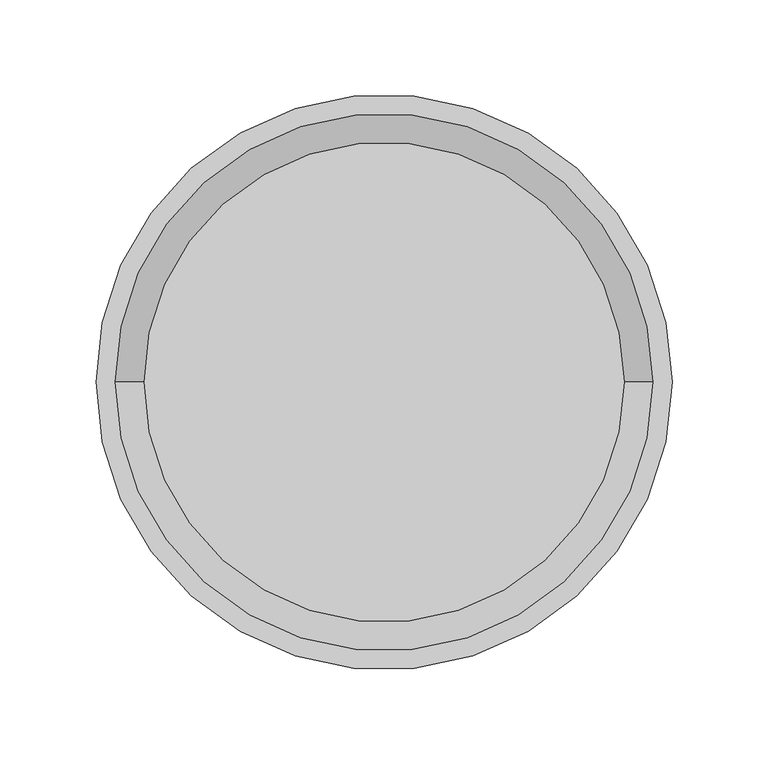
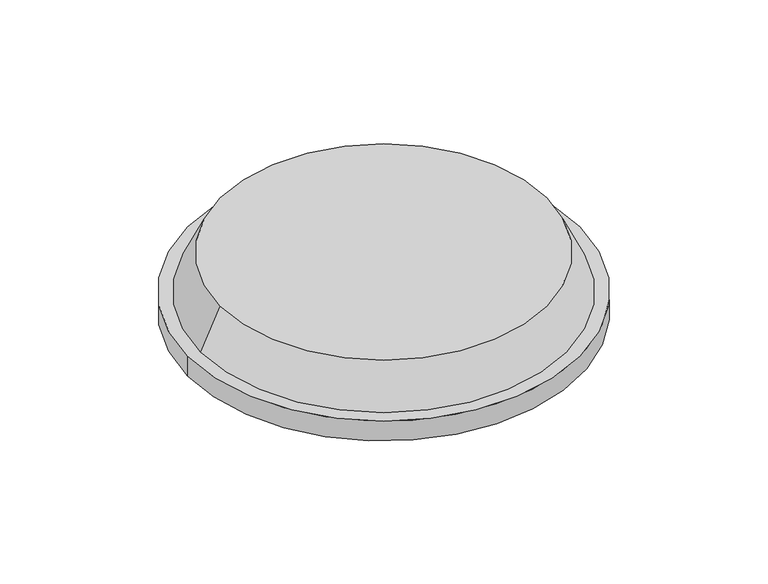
"""IFC4 building model written with IfcOpenShell, lengths in millimetres: light fixture geometry, GENILED_Светильник светодиодный_Orbita : Orbita 300x64 24Вт 3000К IP54."""

from ifc_helpers import new_model, si_unit, point, frame, origin, origin_2d, place, context, project, spatial, polyline, circle_curve, ellipse_curve, trimmed, segment, composite_curve, outline, extrude, source, transform, mapped, element, save
from ifc_brep_helpers import plane_surface, revolved_surface, advanced_brep


def light_fixture_0b942c4b(model_context):
    return source(origin(), model_context, "Body", "SolidModel", [
        advanced_brep(
        [(140.0, 0.0, 16.0), (-140.0, 0.0, 16.0), (0.0, 0.0, 16.0), (0.0, 0.0, 0.0)],
        [
            (0, 1, circle_curve(frame((0.0, 0.0, 16.0), z_axis=(0.0, 0.0, 1.0), x_axis=(-1.0, 0.0, 0.0)), 140.0)),
            (1, 2),
            (2, 0),
            (1, 0, circle_curve(frame((0.0, 0.0, 16.0), z_axis=(0.0, 0.0, 1.0), x_axis=(-1.0, 0.0, 0.0)), 140.0)),
            (3, 1, circle_curve(frame((-5.9579606, 0.0, 568.3678452), z_axis=(0.0, 1.0, 0.0), x_axis=(1.0, 0.0, 0.0)), 568.3990717)),
            (0, 3, circle_curve(frame((5.9579606, 0.0, 568.3678452), z_axis=(0.0, 1.0, 0.0), x_axis=(-1.0, 0.0, 0.0)), 568.3990717)),
        ],
        [
            plane_surface(frame((0.0, 0.0, 16.0), z_axis=(0.0, 0.0, 1.0), x_axis=(-1.0, 0.0, 0.0))),
            revolved_surface(trimmed(ellipse_curve(frame((-5.9579606, 0.0, 568.3678452), z_axis=(0.0, -1.0, 0.0), x_axis=(1.0, 0.0, 0.0)), 568.3990717, 568.3990717), [point((-140.0, 0.0, 16.0))], [point((0.0, 0.0, 0.0))], True, "CARTESIAN"), (0.0, 0.0, 16.0), (0.0, 0.0, -1.0)),
        ],
        [
            (0, [[1, 2, 3]]),
            (0, [[4, -3, -2]]),
            (1, [[5, -1, 6]]),
            (1, [[-6, -4, -5]]),
        ],
    ),
        advanced_brep(
        [(-125.0, 0.0, 64.0), (125.0, 0.0, 64.0), (-140.0, 0.0, 32.0), (140.0, 0.0, 32.0)],
        [
            (0, 1, circle_curve(frame((0.0, 0.0, 64.0), z_axis=(0.0, 0.0, 1.0), x_axis=(-1.0, 0.0, 0.0)), 125.0)),
            (1, 0, circle_curve(frame((0.0, 0.0, 64.0), z_axis=(0.0, 0.0, 1.0), x_axis=(1.0, 0.0, 0.0)), 125.0)),
            (2, 3, circle_curve(frame((0.0, 0.0, 32.0), z_axis=(0.0, 0.0, -1.0), x_axis=(1.0, 0.0, 0.0)), 140.0)),
            (3, 2, circle_curve(frame((0.0, 0.0, 32.0), z_axis=(0.0, 0.0, -1.0), x_axis=(-1.0, 0.0, 0.0)), 140.0)),
            (3, 1),
            (0, 2),
        ],
        [
            plane_surface(frame((0.0, 0.0, 64.0), z_axis=(0.0, 0.0, 1.0), x_axis=(0.0, -1.0, 0.0))),
            plane_surface(frame((0.0, 0.0, 32.0), z_axis=(0.0, 0.0, -1.0), x_axis=(0.0, -1.0, 0.0))),
            revolved_surface(polyline([(-125.00000000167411, 0.0, 64.0), (-140.0, 0.0, 32.0)]), (0.0, 0.0, 330.6666667), (0.0, 0.0, -1.0)),
            revolved_surface(polyline([(125.00000000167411, 0.0, 64.0), (140.0, 0.0, 32.0)]), (0.0, 0.0, 330.6666667), (0.0, 0.0, -1.0)),
        ],
        [
            (0, [[1, 2]]),
            (1, [[3, 4]]),
            (2, [[-4, 5, -1, 6]]),
            (3, [[-3, -6, -2, -5]]),
        ],
    ),
        extrude(outline(composite_curve([segment(trimmed(circle_curve(origin_2d(), 150.0), [point((-150.0, 0.0))], [point((150.0, 0.0))], False, "CARTESIAN"), True, "CONTINUOUS"), segment(trimmed(circle_curve(origin_2d(), 150.0), [point((150.0, 0.0))], [point((-150.0, 0.0))], False, "CARTESIAN"), True, "CONTINUOUS")], self_intersect=False)), frame((0.0, 0.0, 16.0), z_axis=(0.0, 0.0, 1.0), x_axis=(1.0, 0.0, 0.0)), (0.0, 0.0, 1.0), 16.0),
    ])


if __name__ == "__main__":
    model = new_model("IFC4")
    model_context = context("Model", 3, world=origin())
    ifc_project = project(units=[si_unit("LENGTHUNIT", "METRE", prefix="MILLI")], contexts=[model_context])
    site = spatial("IfcSite", under=ifc_project)
    building = spatial("IfcBuilding", under=site)
    placement = place(None, origin())
    light_fixture_shape = light_fixture_0b942c4b(model_context)
    element("IfcLightFixture", 1, ObjectType="GENILED_Светильник светодиодный_Orbita : Orbita 300x64 24Вт 3000К IP54", at=placement, inside=building, context=model_context, shape_type="MappedRepresentation", body=[
        mapped(light_fixture_shape, transform((0.0, 0.0, 0.0), x_axis=(1.0, 0.0, 0.0), y_axis=(0.0, 1.0, 0.0), z_axis=(0.0, 0.0, 1.0))),
    ])
    save(model, "model.ifc")
